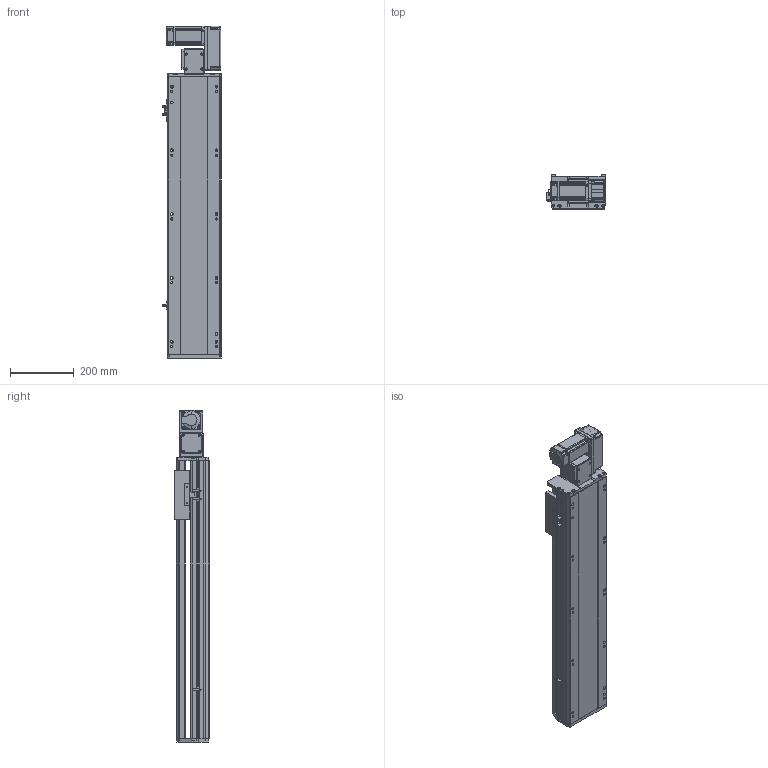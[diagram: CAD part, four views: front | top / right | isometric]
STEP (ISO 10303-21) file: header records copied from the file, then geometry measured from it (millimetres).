
FILE_DESCRIPTION (( 'STEP AP214' ), '1' );
FILE_NAME ('RTB17S-XX-600-R-M40-C4.STEP', '2025-12-11T07:34:22', ( '' ), ( '' ), 'SwSTEP 2.0', 'SolidWorks 2018', '' );
FILE_SCHEMA (( 'AUTOMOTIVE_DESIGN' ));
Length unit declared in the file: millimetre
Products named in the file (14): RTB17S-L-007奻裔^RTB17S-XX-XX-R-M40-C4; RTB17S-XX-600-R-M40-C4; OMRON EE-SX672 传感器^RTB17S-XX-XX-R-M40-C4; RTB14-L-018P^RTB17S-R-々湍釱蚾饜-400W_RTB17S-XX-XX-R-M40-C4; RTB17S-L-014-T20--々湍釱^RTB17S-R-々湍釱蚾饜-400W_RTB17S-XX-XX-R-M40-C4; 400W侜督萇儂^RTB17S-XX-XX-R-M40-C4; RTB17S-L-001耜醱啣^RTB17S-XX-XX-R-M40-C4; RTB17-R-011菁釱^RTB17S-XX-XX-R-M40-C4; RTH13-BL-012覜茼え俋离^RTB17S-XX-XX-R-M40-C4; RTB17S-L-004佪裝蹟譫蟀諉釱^RTB17S-XX-XX-R-M40-C4; RTB17S-R-々湍釱蚾饜-400W^RTB17S-XX-XX-R-M40-C4; RTB14-L-017P^RTB17S-R-々湍釱蚾饜-400W_RTB17S-XX-XX-R-M40-C4; RTB14-L-008-M20--萇儂啣^RTB17S-R-々湍釱蚾饜-400W_RTB17S-XX-XX-R-M40-C4; RTB14-L-005P--轴承塑胶压盖^RTB17S-R-皮带座装配-400W_RTB17S-XX-XX-R-M40-C4
Assembly tree (16 placements, depth 3):
  RTB17S-XX-600-R-M40-C4
    RTB17-R-011菁釱^RTB17S-XX-XX-R-M40-C4
    RTB17S-L-007奻裔^RTB17S-XX-XX-R-M40-C4
    OMRON EE-SX672 传感器^RTB17S-XX-XX-R-M40-C4  x3
    RTB17S-L-001耜醱啣^RTB17S-XX-XX-R-M40-C4
    400W侜督萇儂^RTB17S-XX-XX-R-M40-C4
    RTB17S-L-004佪裝蹟譫蟀諉釱^RTB17S-XX-XX-R-M40-C4
    RTH13-BL-012覜茼え俋离^RTB17S-XX-XX-R-M40-C4
    RTB17S-R-々湍釱蚾饜-400W^RTB17S-XX-XX-R-M40-C4
      RTB17S-L-014-T20--々湍釱^RTB17S-R-々湍釱蚾饜-400W_RTB17S-XX-XX-R-M40-C4
      RTB14-L-005P--轴承塑胶压盖^RTB17S-R-皮带座装配-400W_RTB17S-XX-XX-R-M40-C4
      RTB14-L-008-M20--萇儂啣^RTB17S-R-々湍釱蚾饜-400W_RTB17S-XX-XX-R-M40-C4
      RTB14-L-017P^RTB17S-R-々湍釱蚾饜-400W_RTB17S-XX-XX-R-M40-C4  x2
      RTB14-L-018P^RTB17S-R-々湍釱蚾饜-400W_RTB17S-XX-XX-R-M40-C4
Bounding box: 183.5 x 108 x 1041 mm (x, y, z)
Volume: 9115026 mm3; surface area: 1141449 mm2
Topology: 15 solids, 15 shells, 2173 faces, 5979 edges, 3897 vertices
Faces by surface type: plane 1064, cylinder 661, bspline 301, cone 139, torus 8
Entity records: 61097 total; most frequent: CARTESIAN_POINT 16984, ORIENTED_EDGE 8802, DIRECTION 8216, EDGE_CURVE 4401, VERTEX_POINT 2885, AXIS2_PLACEMENT_3D 2815, LINE 2586, VECTOR 2586
